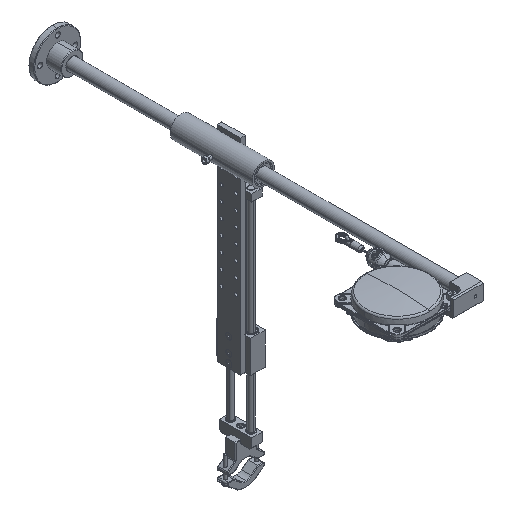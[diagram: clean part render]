
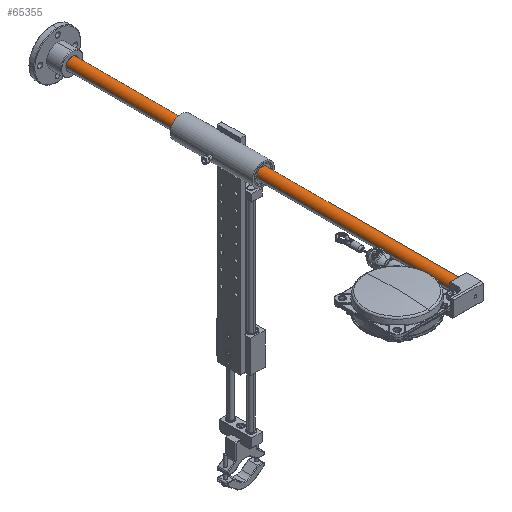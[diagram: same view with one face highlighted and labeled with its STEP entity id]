
A CAD part, isometric view. The second image highlights one B-rep face of the part: STEP entity #65355.
In plain terms, the highlighted cylindrical face has radius 10 mm (diameter 20 mm), a partial arc.
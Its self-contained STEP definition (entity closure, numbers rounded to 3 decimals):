
#326 = ORIENTED_EDGE ( 'NONE', *, *, #36032, .T. ) ;
#2014 = CARTESIAN_POINT ( 'NONE',  ( 0., -232.063, 0. ) ) ;
#4015 = CARTESIAN_POINT ( 'NONE',  ( 10., -232.063, 0. ) ) ;
#4498 = VERTEX_POINT ( 'NONE', #57575 ) ;
#5483 = DIRECTION ( 'NONE',  ( 0., 1., 0. ) ) ;
#7003 = CIRCLE ( 'NONE', #28197, 10. ) ;
#10347 = DIRECTION ( 'NONE',  ( 0., -1., 0. ) ) ;
#11249 = CARTESIAN_POINT ( 'NONE',  ( 10., 466.937, 0. ) ) ;
#14076 = EDGE_CURVE ( 'NONE', #28740, #22607, #7003, .T. ) ;
#14442 = ORIENTED_EDGE ( 'NONE', *, *, #14076, .T. ) ;
#18990 = ORIENTED_EDGE ( 'NONE', *, *, #34904, .F. ) ;
#22607 = VERTEX_POINT ( 'NONE', #4015 ) ;
#24216 = DIRECTION ( 'NONE',  ( 1., 0., 0. ) ) ;
#25870 = VECTOR ( 'NONE', #50132, 1000. ) ;
#28197 = AXIS2_PLACEMENT_3D ( 'NONE', #2014, #5483, #57725 ) ;
#28740 = VERTEX_POINT ( 'NONE', #60330 ) ;
#29151 = CARTESIAN_POINT ( 'NONE',  ( 0., 466.937, 0. ) ) ;
#31269 = CIRCLE ( 'NONE', #38538, 10. ) ;
#32235 = VECTOR ( 'NONE', #33078, 1000. ) ;
#33078 = DIRECTION ( 'NONE',  ( 0., -1., 0. ) ) ;
#34904 = EDGE_CURVE ( 'NONE', #36076, #22607, #44543, .T. ) ;
#35399 = DIRECTION ( 'NONE',  ( 0., -1., 0. ) ) ;
#36032 = EDGE_CURVE ( 'NONE', #36076, #4498, #31269, .T. ) ;
#36076 = VERTEX_POINT ( 'NONE', #11249 ) ;
#38538 = AXIS2_PLACEMENT_3D ( 'NONE', #29151, #35399, #24216 ) ;
#39538 = CARTESIAN_POINT ( 'NONE',  ( 10., 467.437, 0. ) ) ;
#40143 = DIRECTION ( 'NONE',  ( -1., 0., 0. ) ) ;
#43426 = EDGE_CURVE ( 'NONE', #4498, #28740, #47708, .T. ) ;
#44543 = LINE ( 'NONE', #39538, #25870 ) ;
#47708 = LINE ( 'NONE', #62894, #32235 ) ;
#50085 = ORIENTED_EDGE ( 'NONE', *, *, #43426, .T. ) ;
#50132 = DIRECTION ( 'NONE',  ( 0., -1., 0. ) ) ;
#55386 = EDGE_LOOP ( 'NONE', ( #18990, #326, #50085, #14442 ) ) ;
#55711 = FACE_OUTER_BOUND ( 'NONE', #55386, .T. ) ;
#57575 = CARTESIAN_POINT ( 'NONE',  ( -10., 466.937, 0. ) ) ;
#57725 = DIRECTION ( 'NONE',  ( 1., 0., 0. ) ) ;
#59686 = CYLINDRICAL_SURFACE ( 'NONE', #64509, 10. ) ;
#60330 = CARTESIAN_POINT ( 'NONE',  ( -10., -232.063, 0. ) ) ;
#62894 = CARTESIAN_POINT ( 'NONE',  ( -10., 467.437, 0. ) ) ;
#64509 = AXIS2_PLACEMENT_3D ( 'NONE', #64647, #10347, #40143 ) ;
#64647 = CARTESIAN_POINT ( 'NONE',  ( 0., 467.437, 0. ) ) ;
#65355 = ADVANCED_FACE ( 'NONE', ( #55711 ), #59686, .T. ) ;
